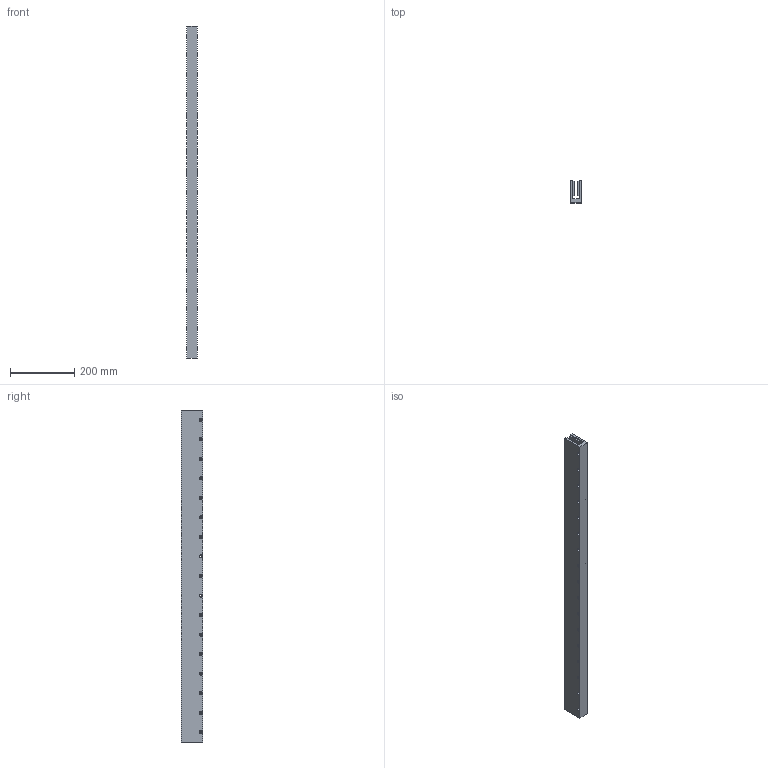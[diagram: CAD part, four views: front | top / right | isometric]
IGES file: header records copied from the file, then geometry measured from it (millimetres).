
Global section: file name: No Iges File Name specified; native system: Autodesk Inventor 2012; preprocessor: AutoDesk Inventor Iges Exporter R2012; author: je17857; date: 20120511.155706; units: inch
Bounding box: 34.29 x 67.31 x 1036.07 mm (x, y, z)
Volume: 1540682.8 mm3; surface area: 392799.6 mm2
Topology: 1 solids, 1 shells, 435 faces, 993 edges, 662 vertices
Faces by surface type: plane 384, revolution 51
